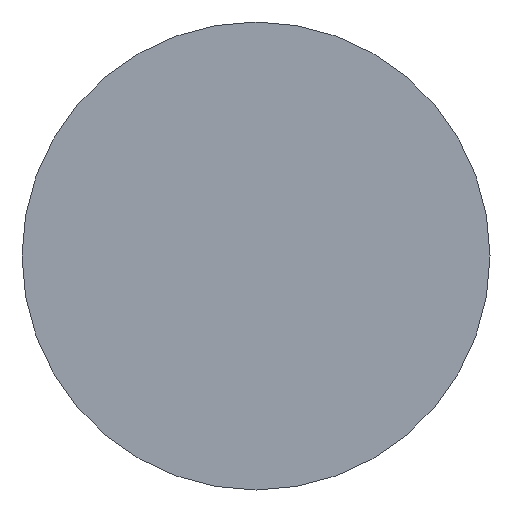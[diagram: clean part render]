
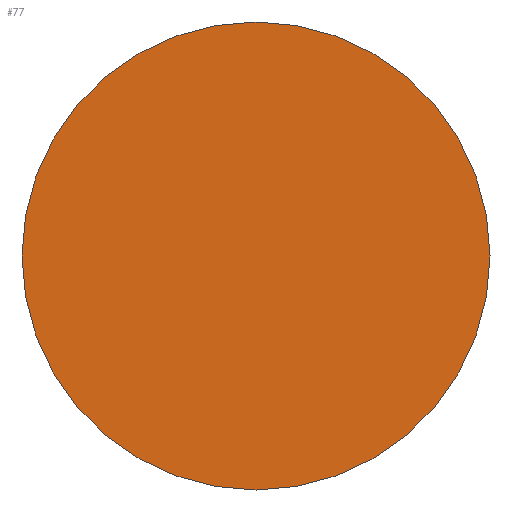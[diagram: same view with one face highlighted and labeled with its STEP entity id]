
A CAD part, left-side view. The second image highlights one B-rep face of the part: STEP entity #77.
In plain terms, the highlighted free-form (B-spline) face has degree [1, 1] with [2, 2] control points.
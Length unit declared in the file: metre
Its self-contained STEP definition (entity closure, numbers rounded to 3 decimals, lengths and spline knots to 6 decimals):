
#77 = ADVANCED_FACE( '', ( #93 ), #94, .F. );
#93 = FACE_OUTER_BOUND( '', #123, .T. );
#94 = B_SPLINE_SURFACE_WITH_KNOTS( '', 1, 1, ( ( #124, #125 ), ( #126, #127 ) ), .UNSPECIFIED., .F., .F., .F., ( 2, 2 ), ( 2, 2 ), ( 0., 1. ), ( 0., 1. ), .UNSPECIFIED. );
#123 = EDGE_LOOP( '', ( #217, #218 ) );
#124 = CARTESIAN_POINT( '', ( 0., -0.013156, 0.013156 ) );
#125 = CARTESIAN_POINT( '', ( 0., 0.013156, 0.013156 ) );
#126 = CARTESIAN_POINT( '', ( 0., -0.013156, -0.013156 ) );
#127 = CARTESIAN_POINT( '', ( 0., 0.013156, -0.013156 ) );
#217 = ORIENTED_EDGE( '', *, *, #301, .T. );
#218 = ORIENTED_EDGE( '', *, *, #302, .T. );
#301 = EDGE_CURVE( '', #327, #328, #329, .T. );
#302 = EDGE_CURVE( '', #328, #327, #330, .T. );
#327 = VERTEX_POINT( '', #369 );
#328 = VERTEX_POINT( '', #370 );
#329 = CIRCLE( '', #371, 0.013 );
#330 = CIRCLE( '', #372, 0.013 );
#369 = CARTESIAN_POINT( '', ( 0., 0., -0.013 ) );
#370 = CARTESIAN_POINT( '', ( 0., 0., 0.013 ) );
#371 = AXIS2_PLACEMENT_3D( '', #439, #440, #441 );
#372 = AXIS2_PLACEMENT_3D( '', #442, #443, #444 );
#439 = CARTESIAN_POINT( '', ( 0., 0., 0. ) );
#440 = DIRECTION( '', ( -1., 0., 0. ) );
#441 = DIRECTION( '', ( 0., 0., 1. ) );
#442 = CARTESIAN_POINT( '', ( 0., 0., 0. ) );
#443 = DIRECTION( '', ( -1., 0., 0. ) );
#444 = DIRECTION( '', ( 0., 0., 1. ) );
